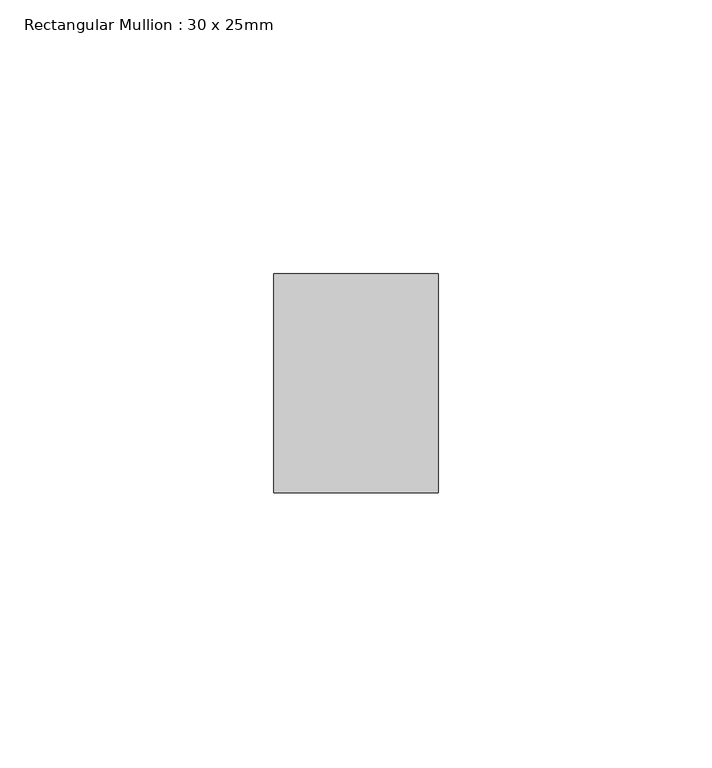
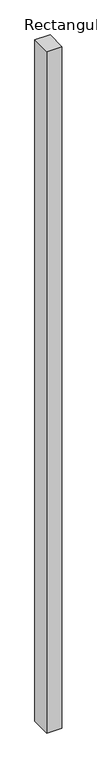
"""IFC4 building model written with IfcOpenShell, lengths in millimetres: member geometry, Rectangular Mullion : 30 x 25mm."""

from ifc_helpers import new_model, si_unit, frame, origin, place, context, project, spatial, polyline, outline, extrude, source, transform, mapped, element, save


def rectangular_mullion_30_x_25mm_decafcd8(model_context):
    return source(origin(), model_context, "Body", "SweptSolid", [
        extrude(outline(polyline([(0.0, -20.0), (0.0, -60.0), (-30.0, -60.0), (-30.0, -20.0), (0.0, -20.0)])), frame((0.0, 0.0, -1420.0), z_axis=(0.0, 0.0, 1.0), x_axis=(1.0, 0.0, 0.0)), (0.0, 0.0, 1.0), 1420.0),
    ])


if __name__ == "__main__":
    model = new_model("IFC4")
    model_context = context("Model", 3, world=origin())
    ifc_project = project(units=[si_unit("LENGTHUNIT", "METRE", prefix="MILLI")], contexts=[model_context])
    site = spatial("IfcSite", under=ifc_project)
    building = spatial("IfcBuilding", under=site)
    placement = place(None, origin())
    rectangular_mullion_30_x_25mm_shape = rectangular_mullion_30_x_25mm_decafcd8(model_context)
    element("IfcMember", 1, ObjectType="Rectangular Mullion : 30 x 25mm", at=placement, inside=building, context=model_context, shape_type="MappedRepresentation", body=[
        mapped(rectangular_mullion_30_x_25mm_shape, transform((0.0, 0.0, 0.0), x_axis=(1.0, 0.0, 0.0), y_axis=(0.0, 1.0, 0.0), z_axis=(0.0, 0.0, 1.0))),
    ])
    save(model, "model.ifc")
